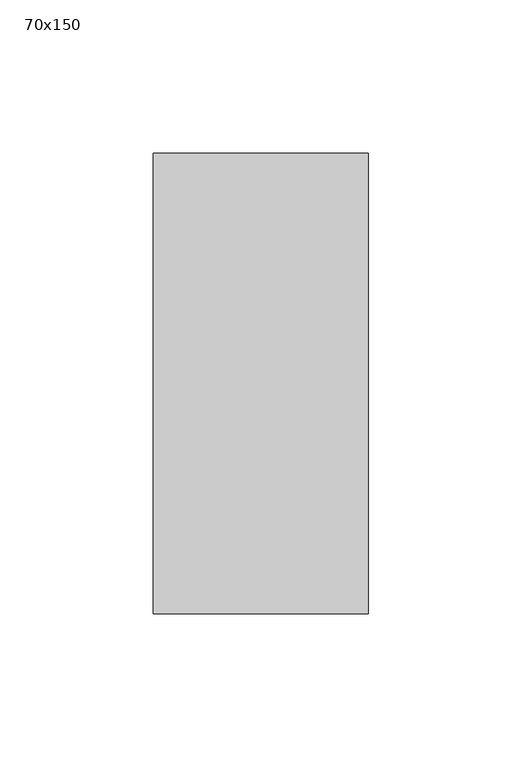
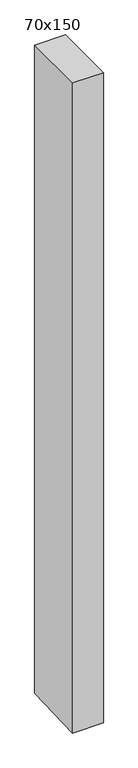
"""IFC4 building model written with IfcOpenShell, lengths in millimetres: member geometry, 長方形のマリオン : 70x150."""

from ifc_helpers import new_model, si_unit, frame, origin, place, context, project, spatial, polyline, outline, extrude, source, transform, mapped, element, save


def member_70x150_666b8813(model_context):
    return source(origin(), model_context, "Body", "SweptSolid", [
        extrude(outline(polyline([(-75.0, 0.0), (75.0, 0.0), (75.0, -1562.7028653), (-75.0, -1568.4330524), (-75.0, 0.0)])), frame((-35.0, 0.0, 0.0), z_axis=(1.0, 0.0, 0.0), x_axis=(0.0, 1.0, 0.0)), (0.0, 0.0, 1.0), 70.0),
    ])


if __name__ == "__main__":
    model = new_model("IFC4")
    model_context = context("Model", 3, world=origin())
    ifc_project = project(units=[si_unit("LENGTHUNIT", "METRE", prefix="MILLI")], contexts=[model_context])
    site = spatial("IfcSite", under=ifc_project)
    building = spatial("IfcBuilding", under=site)
    placement = place(None, origin())
    member_70x150_shape = member_70x150_666b8813(model_context)
    element("IfcMember", 1, ObjectType="長方形のマリオン : 70x150", at=placement, inside=building, context=model_context, shape_type="MappedRepresentation", body=[
        mapped(member_70x150_shape, transform((0.0, 0.0, 0.0), x_axis=(1.0, 0.0, 0.0), y_axis=(0.0, 1.0, 0.0), z_axis=(0.0, 0.0, 1.0))),
    ])
    save(model, "model.ifc")
